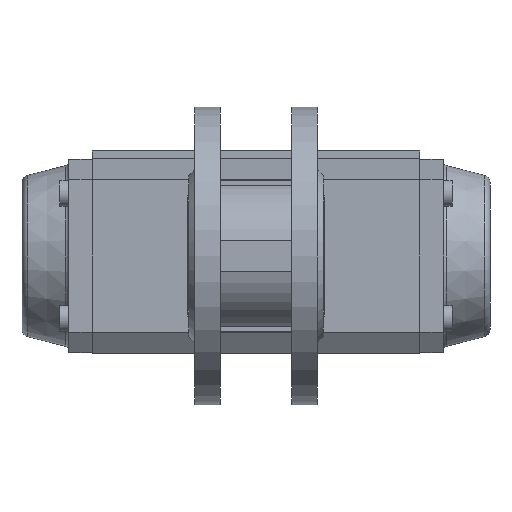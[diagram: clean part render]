
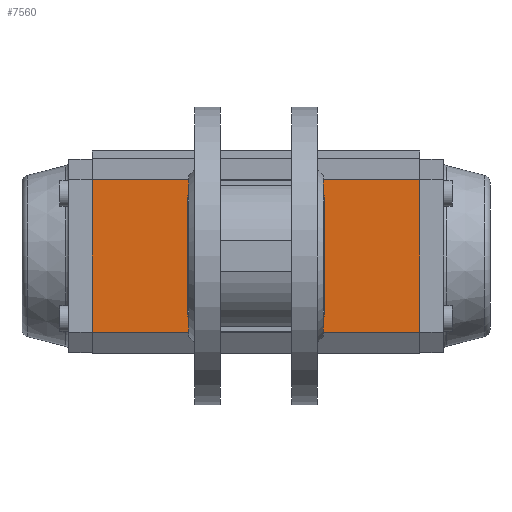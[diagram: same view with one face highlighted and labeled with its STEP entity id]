
A CAD part, front view. The second image highlights one B-rep face of the part: STEP entity #7560.
In plain terms, the highlighted planar face has unit normal (0, -1, 0).
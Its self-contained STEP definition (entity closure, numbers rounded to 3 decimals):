
#1639 = CARTESIAN_POINT ( 'NONE',  ( 0., -55., 0. ) ) ;
#1640 = DIRECTION ( 'NONE',  ( 0., -1., 0. ) ) ;
#1641 = DIRECTION ( 'NONE',  ( 0., 0., -1. ) ) ;
#1725 = EDGE_CURVE ( 'NONE', #2734, #2696, #3673, .T. ) ;
#1941 = EDGE_CURVE ( 'NONE', #2690, #2687, #3559, .T. ) ;
#1979 = EDGE_CURVE ( 'NONE', #2716, #2728, #3498, .T. ) ;
#2687 = VERTEX_POINT ( 'NONE', #6802 ) ;
#2690 = VERTEX_POINT ( 'NONE', #6805 ) ;
#2692 = VERTEX_POINT ( 'NONE', #6807 ) ;
#2696 = VERTEX_POINT ( 'NONE', #6811 ) ;
#2702 = VERTEX_POINT ( 'NONE', #6817 ) ;
#2716 = VERTEX_POINT ( 'NONE', #5210 ) ;
#2728 = VERTEX_POINT ( 'NONE', #5222 ) ;
#2732 = VERTEX_POINT ( 'NONE', #5226 ) ;
#2734 = VERTEX_POINT ( 'NONE', #5228 ) ;
#2735 = VERTEX_POINT ( 'NONE', #5229 ) ;
#2844 = CARTESIAN_POINT ( 'NONE',  ( -24.749, -55., -24.749 ) ) ;
#2845 = DIRECTION ( 'NONE',  ( 0., -1., 0. ) ) ;
#2846 = DIRECTION ( 'NONE',  ( 0., 0., -1. ) ) ;
#2862 = CARTESIAN_POINT ( 'NONE',  ( 24.749, -55., -24.749 ) ) ;
#2863 = DIRECTION ( 'NONE',  ( 0., -1., 0. ) ) ;
#2864 = DIRECTION ( 'NONE',  ( 0., 0., -1. ) ) ;
#3236 = ORIENTED_EDGE ( 'NONE', *, *, #9007, .T. ) ;
#3237 = ORIENTED_EDGE ( 'NONE', *, *, #9057, .F. ) ;
#3238 = ORIENTED_EDGE ( 'NONE', *, *, #9023, .F. ) ;
#3239 = ORIENTED_EDGE ( 'NONE', *, *, #9051, .T. ) ;
#3240 = ORIENTED_EDGE ( 'NONE', *, *, #1941, .F. ) ;
#3241 = ORIENTED_EDGE ( 'NONE', *, *, #9056, .F. ) ;
#3242 = ORIENTED_EDGE ( 'NONE', *, *, #1979, .F. ) ;
#3243 = ORIENTED_EDGE ( 'NONE', *, *, #9055, .F. ) ;
#3244 = ORIENTED_EDGE ( 'NONE', *, *, #9183, .F. ) ;
#3245 = ORIENTED_EDGE ( 'NONE', *, *, #9054, .F. ) ;
#3246 = ORIENTED_EDGE ( 'NONE', *, *, #9189, .F. ) ;
#3247 = ORIENTED_EDGE ( 'NONE', *, *, #9053, .F. ) ;
#3248 = ORIENTED_EDGE ( 'NONE', *, *, #1725, .F. ) ;
#3249 = ORIENTED_EDGE ( 'NONE', *, *, #9052, .F. ) ;
#3494 = AXIS2_PLACEMENT_3D ( 'NONE', #9716, #9717, #9718 ) ;
#3498 = CIRCLE ( 'NONE', #3494, 3.4 ) ;
#3552 = AXIS2_PLACEMENT_3D ( 'NONE', #1639, #1640, #1641 ) ;
#3559 = CIRCLE ( 'NONE', #3552, 27.5 ) ;
#3667 = AXIS2_PLACEMENT_3D ( 'NONE', #10502, #10503, #10504 ) ;
#3673 = CIRCLE ( 'NONE', #3667, 3.4 ) ;
#4129 = FACE_BOUND ( 'NONE', #5698, .T. ) ;
#4134 = FACE_BOUND ( 'NONE', #5700, .T. ) ;
#4135 = FACE_BOUND ( 'NONE', #5702, .T. ) ;
#4136 = FACE_OUTER_BOUND ( 'NONE', #5704, .T. ) ;
#4137 = PLANE ( 'NONE',  #11800 ) ;
#4138 = FACE_BOUND ( 'NONE', #5691, .T. ) ;
#4140 = FACE_BOUND ( 'NONE', #5695, .T. ) ;
#4141 = CARTESIAN_POINT ( 'NONE',  ( -38.5, -55., -82.5 ) ) ;
#4142 = DIRECTION ( 'NONE',  ( 0., -1., 0. ) ) ;
#4143 = DIRECTION ( 'NONE',  ( 0., 0., -1. ) ) ;
#4654 = CARTESIAN_POINT ( 'NONE',  ( 38.5, -55., 82.5 ) ) ;
#4673 = CARTESIAN_POINT ( 'NONE',  ( -38.5, -55., 82.5 ) ) ;
#4674 = CARTESIAN_POINT ( 'NONE',  ( -38.5, -55., -82.5 ) ) ;
#4679 = CARTESIAN_POINT ( 'NONE',  ( 38.5, -55., -82.5 ) ) ;
#5210 = CARTESIAN_POINT ( 'NONE',  ( -24.749, -55., 28.149 ) ) ;
#5222 = CARTESIAN_POINT ( 'NONE',  ( -24.749, -55., 21.349 ) ) ;
#5226 = CARTESIAN_POINT ( 'NONE',  ( 24.749, -55., -28.149 ) ) ;
#5228 = CARTESIAN_POINT ( 'NONE',  ( 24.749, -55., 28.149 ) ) ;
#5229 = CARTESIAN_POINT ( 'NONE',  ( -24.749, -55., -21.349 ) ) ;
#5691 = EDGE_LOOP ( 'NONE', ( #3245, #3244 ) ) ;
#5695 = EDGE_LOOP ( 'NONE', ( #3243, #3242 ) ) ;
#5698 = EDGE_LOOP ( 'NONE', ( #3247, #3246 ) ) ;
#5700 = EDGE_LOOP ( 'NONE', ( #3241, #3240 ) ) ;
#5702 = EDGE_LOOP ( 'NONE', ( #3249, #3248 ) ) ;
#5704 = EDGE_LOOP ( 'NONE', ( #3239, #3238, #3237, #3236 ) ) ;
#6802 = CARTESIAN_POINT ( 'NONE',  ( 0., -55., -27.5 ) ) ;
#6805 = CARTESIAN_POINT ( 'NONE',  ( 0., -55., 27.5 ) ) ;
#6807 = CARTESIAN_POINT ( 'NONE',  ( 24.749, -55., -21.349 ) ) ;
#6811 = CARTESIAN_POINT ( 'NONE',  ( 24.749, -55., 21.349 ) ) ;
#6817 = CARTESIAN_POINT ( 'NONE',  ( -24.749, -55., -28.149 ) ) ;
#7560 = ADVANCED_FACE ( 'NONE', ( #4135, #4129, #4138, #4140, #4134, #4136 ), #4137, .T. ) ;
#8759 = VERTEX_POINT ( 'NONE', #4654 ) ;
#8778 = VERTEX_POINT ( 'NONE', #4673 ) ;
#8779 = VERTEX_POINT ( 'NONE', #4674 ) ;
#8784 = VERTEX_POINT ( 'NONE', #4679 ) ;
#9007 = EDGE_CURVE ( 'NONE', #8779, #8784, #13349, .T. ) ;
#9023 = EDGE_CURVE ( 'NONE', #8778, #8759, #13396, .T. ) ;
#9051 = EDGE_CURVE ( 'NONE', #8784, #8759, #13489, .T. ) ;
#9052 = EDGE_CURVE ( 'NONE', #2696, #2734, #11335, .T. ) ;
#9053 = EDGE_CURVE ( 'NONE', #2732, #2692, #11334, .T. ) ;
#9054 = EDGE_CURVE ( 'NONE', #2702, #2735, #11365, .T. ) ;
#9055 = EDGE_CURVE ( 'NONE', #2728, #2716, #11332, .T. ) ;
#9056 = EDGE_CURVE ( 'NONE', #2687, #2690, #11328, .T. ) ;
#9057 = EDGE_CURVE ( 'NONE', #8779, #8778, #13501, .T. ) ;
#9183 = EDGE_CURVE ( 'NONE', #2735, #2702, #12528, .T. ) ;
#9189 = EDGE_CURVE ( 'NONE', #2692, #2732, #12519, .T. ) ;
#9716 = CARTESIAN_POINT ( 'NONE',  ( -24.749, -55., 24.749 ) ) ;
#9717 = DIRECTION ( 'NONE',  ( 0., -1., 0. ) ) ;
#9718 = DIRECTION ( 'NONE',  ( 0., 0., -1. ) ) ;
#10502 = CARTESIAN_POINT ( 'NONE',  ( 24.749, -55., 24.749 ) ) ;
#10503 = DIRECTION ( 'NONE',  ( 0., -1., 0. ) ) ;
#10504 = DIRECTION ( 'NONE',  ( 0., 0., -1. ) ) ;
#11325 = AXIS2_PLACEMENT_3D ( 'NONE', #13508, #13509, #13510 ) ;
#11326 = VECTOR ( 'NONE', #13511, 1000. ) ;
#11327 = AXIS2_PLACEMENT_3D ( 'NONE', #13503, #13504, #13505 ) ;
#11328 = CIRCLE ( 'NONE', #11325, 27.5 ) ;
#11329 = AXIS2_PLACEMENT_3D ( 'NONE', #13498, #13499, #13500 ) ;
#11331 = AXIS2_PLACEMENT_3D ( 'NONE', #13495, #13496, #13497 ) ;
#11332 = CIRCLE ( 'NONE', #11327, 3.4 ) ;
#11333 = AXIS2_PLACEMENT_3D ( 'NONE', #13492, #13493, #13494 ) ;
#11334 = CIRCLE ( 'NONE', #11331, 3.4 ) ;
#11335 = CIRCLE ( 'NONE', #11333, 3.4 ) ;
#11336 = VECTOR ( 'NONE', #13491, 1000. ) ;
#11365 = CIRCLE ( 'NONE', #11329, 3.4 ) ;
#11381 = VECTOR ( 'NONE', #13409, 1000. ) ;
#11401 = VECTOR ( 'NONE', #13362, 1000. ) ;
#11800 = AXIS2_PLACEMENT_3D ( 'NONE', #4141, #4142, #4143 ) ;
#12517 = AXIS2_PLACEMENT_3D ( 'NONE', #2862, #2863, #2864 ) ;
#12519 = CIRCLE ( 'NONE', #12517, 3.4 ) ;
#12526 = AXIS2_PLACEMENT_3D ( 'NONE', #2844, #2845, #2846 ) ;
#12528 = CIRCLE ( 'NONE', #12526, 3.4 ) ;
#13349 = LINE ( 'NONE', #13360, #11401 ) ;
#13360 = CARTESIAN_POINT ( 'NONE',  ( -38.5, -55., -82.5 ) ) ;
#13362 = DIRECTION ( 'NONE',  ( 1., 0., 0. ) ) ;
#13396 = LINE ( 'NONE', #13408, #11381 ) ;
#13408 = CARTESIAN_POINT ( 'NONE',  ( -38.5, -55., 82.5 ) ) ;
#13409 = DIRECTION ( 'NONE',  ( 1., 0., 0. ) ) ;
#13489 = LINE ( 'NONE', #13490, #11336 ) ;
#13490 = CARTESIAN_POINT ( 'NONE',  ( 38.5, -55., -82.5 ) ) ;
#13491 = DIRECTION ( 'NONE',  ( 0., 0., 1. ) ) ;
#13492 = CARTESIAN_POINT ( 'NONE',  ( 24.749, -55., 24.749 ) ) ;
#13493 = DIRECTION ( 'NONE',  ( 0., -1., 0. ) ) ;
#13494 = DIRECTION ( 'NONE',  ( 0., 0., -1. ) ) ;
#13495 = CARTESIAN_POINT ( 'NONE',  ( 24.749, -55., -24.749 ) ) ;
#13496 = DIRECTION ( 'NONE',  ( 0., -1., 0. ) ) ;
#13497 = DIRECTION ( 'NONE',  ( 0., 0., -1. ) ) ;
#13498 = CARTESIAN_POINT ( 'NONE',  ( -24.749, -55., -24.749 ) ) ;
#13499 = DIRECTION ( 'NONE',  ( 0., -1., 0. ) ) ;
#13500 = DIRECTION ( 'NONE',  ( 0., 0., -1. ) ) ;
#13501 = LINE ( 'NONE', #13502, #11326 ) ;
#13502 = CARTESIAN_POINT ( 'NONE',  ( -38.5, -55., -82.5 ) ) ;
#13503 = CARTESIAN_POINT ( 'NONE',  ( -24.749, -55., 24.749 ) ) ;
#13504 = DIRECTION ( 'NONE',  ( 0., -1., 0. ) ) ;
#13505 = DIRECTION ( 'NONE',  ( 0., 0., -1. ) ) ;
#13508 = CARTESIAN_POINT ( 'NONE',  ( 0., -55., 0. ) ) ;
#13509 = DIRECTION ( 'NONE',  ( 0., -1., 0. ) ) ;
#13510 = DIRECTION ( 'NONE',  ( 0., 0., -1. ) ) ;
#13511 = DIRECTION ( 'NONE',  ( 0., 0., 1. ) ) ;
